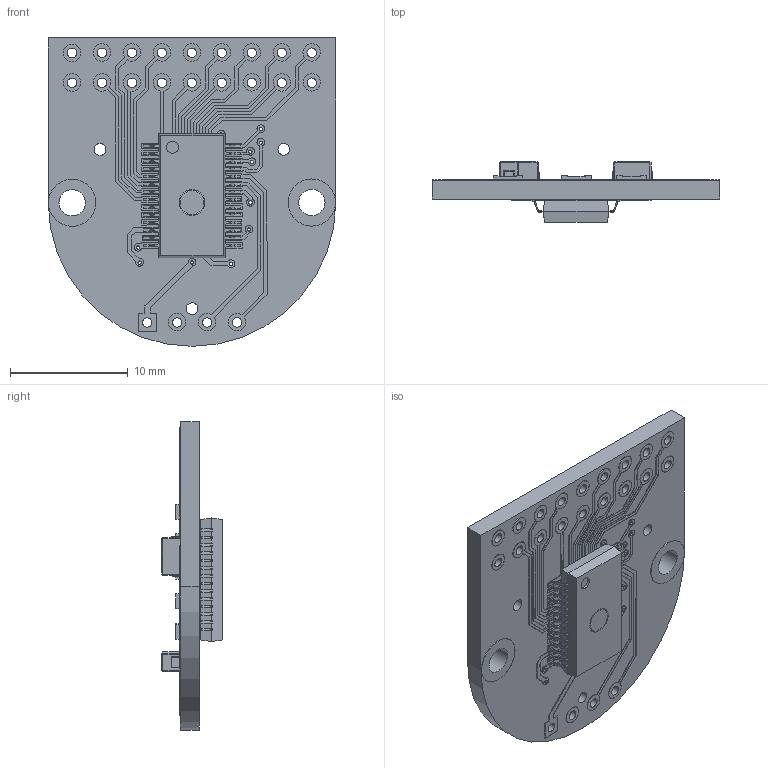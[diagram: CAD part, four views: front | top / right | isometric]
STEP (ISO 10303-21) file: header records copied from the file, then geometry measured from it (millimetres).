
FILE_DESCRIPTION (( 'STEP AP203' ), '1' );
FILE_NAME ('RMK4_module.STEP', '2019-05-28T09:10:35', ( '' ), ( '' ), 'SwSTEP 2.0', 'SolidWorks 2016', '' );
FILE_SCHEMA (( 'CONFIG_CONTROL_DESIGN' ));
Products named in the file (1): RMK4_module
Bounding box: 24.38 x 5.16 x 26.16 mm (x, y, z)
Volume: 1036.3 mm3; surface area: 1938.5 mm2
Topology: 42 solids, 42 shells, 1812 faces, 4884 edges, 3232 vertices
Faces by surface type: plane 1355, cylinder 457
Entity records: 56553 total; most frequent: CARTESIAN_POINT 9929, ORIENTED_EDGE 9768, DIRECTION 9424, EDGE_CURVE 4884, VECTOR 3970, LINE 3970, VERTEX_POINT 3232, AXIS2_PLACEMENT_3D 2727
